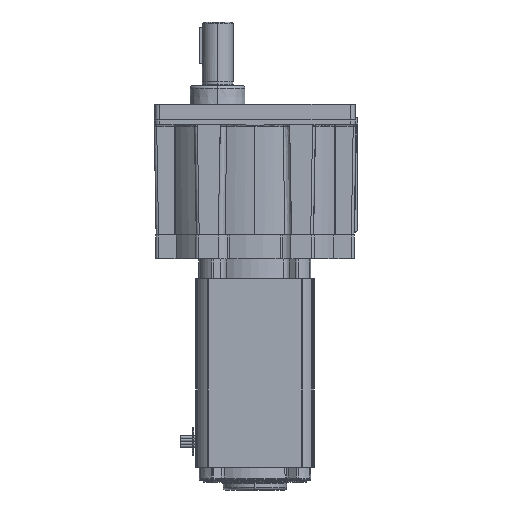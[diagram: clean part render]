
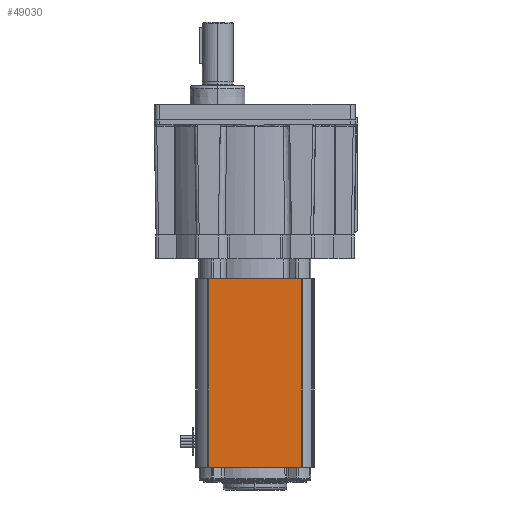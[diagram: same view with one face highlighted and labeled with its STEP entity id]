
A CAD part, left-side view. The second image highlights one B-rep face of the part: STEP entity #49030.
In plain terms, the highlighted planar face has unit normal (-1, 0, 0).
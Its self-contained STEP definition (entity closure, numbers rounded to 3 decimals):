
#2204 = DIRECTION ( 'NONE',  ( 0., 0., -1. ) ) ;
#5026 = CARTESIAN_POINT ( 'NONE',  ( -36.627, 28.842, -145.669 ) ) ;
#6243 = VECTOR ( 'NONE', #15744, 1000. ) ;
#6516 = VERTEX_POINT ( 'NONE', #23416 ) ;
#7354 = EDGE_CURVE ( 'NONE', #40715, #40157, #8365, .T. ) ;
#8365 = LINE ( 'NONE', #36130, #14475 ) ;
#10792 = CARTESIAN_POINT ( 'NONE',  ( -36.627, -28.842, -29.261 ) ) ;
#12483 = ORIENTED_EDGE ( 'NONE', *, *, #15299, .F. ) ;
#12884 = ORIENTED_EDGE ( 'NONE', *, *, #7354, .F. ) ;
#13164 = DIRECTION ( 'NONE',  ( 0., -1., 0. ) ) ;
#13387 = EDGE_LOOP ( 'NONE', ( #20628, #12483, #33513, #12884 ) ) ;
#14171 = DIRECTION ( 'NONE',  ( 0., 0., 1. ) ) ;
#14475 = VECTOR ( 'NONE', #13164, 1000. ) ;
#15299 = EDGE_CURVE ( 'NONE', #6516, #27086, #16599, .T. ) ;
#15744 = DIRECTION ( 'NONE',  ( 0., 1., 0. ) ) ;
#16304 = CARTESIAN_POINT ( 'NONE',  ( -36.627, -29.35, -147.523 ) ) ;
#16479 = DIRECTION ( 'NONE',  ( 0., 0., 1. ) ) ;
#16599 = LINE ( 'NONE', #26911, #6243 ) ;
#17714 = CARTESIAN_POINT ( 'NONE',  ( -36.627, 28.842, -147.523 ) ) ;
#20628 = ORIENTED_EDGE ( 'NONE', *, *, #30098, .T. ) ;
#22338 = CARTESIAN_POINT ( 'NONE',  ( -36.627, -28.842, -147.523 ) ) ;
#23416 = CARTESIAN_POINT ( 'NONE',  ( -36.627, -28.842, -145.669 ) ) ;
#24035 = DIRECTION ( 'NONE',  ( -1., 0., 0. ) ) ;
#24778 = LINE ( 'NONE', #17714, #35773 ) ;
#26911 = CARTESIAN_POINT ( 'NONE',  ( -36.627, -28.842, -145.669 ) ) ;
#27086 = VERTEX_POINT ( 'NONE', #5026 ) ;
#30098 = EDGE_CURVE ( 'NONE', #40715, #27086, #24778, .T. ) ;
#31248 = AXIS2_PLACEMENT_3D ( 'NONE', #16304, #24035, #16479 ) ;
#33513 = ORIENTED_EDGE ( 'NONE', *, *, #47777, .T. ) ;
#35773 = VECTOR ( 'NONE', #2204, 1000. ) ;
#36130 = CARTESIAN_POINT ( 'NONE',  ( -36.627, -29.35, -29.261 ) ) ;
#38658 = LINE ( 'NONE', #22338, #42863 ) ;
#38996 = FACE_OUTER_BOUND ( 'NONE', #13387, .T. ) ;
#39912 = PLANE ( 'NONE',  #31248 ) ;
#40157 = VERTEX_POINT ( 'NONE', #10792 ) ;
#40715 = VERTEX_POINT ( 'NONE', #47252 ) ;
#42863 = VECTOR ( 'NONE', #14171, 1000. ) ;
#47252 = CARTESIAN_POINT ( 'NONE',  ( -36.627, 28.842, -29.261 ) ) ;
#47777 = EDGE_CURVE ( 'NONE', #6516, #40157, #38658, .T. ) ;
#49030 = ADVANCED_FACE ( 'NONE', ( #38996 ), #39912, .T. ) ;
